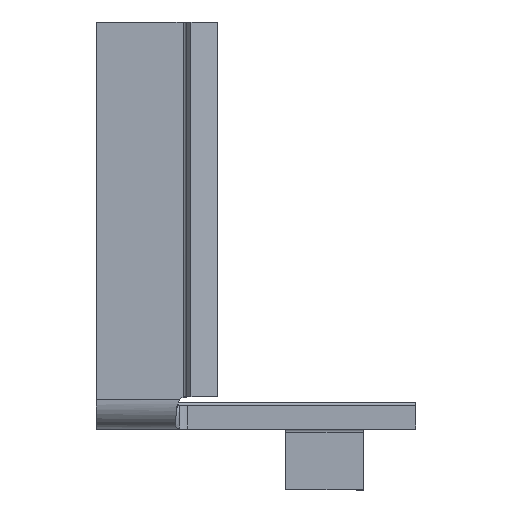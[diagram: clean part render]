
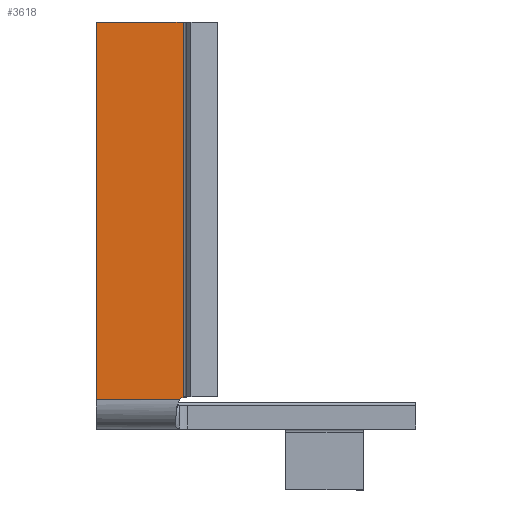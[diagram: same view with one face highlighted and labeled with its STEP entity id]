
A CAD part, left-side view. The second image highlights one B-rep face of the part: STEP entity #3618.
In plain terms, the highlighted planar face has unit normal (-1, 0, 0).
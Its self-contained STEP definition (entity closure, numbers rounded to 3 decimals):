
#101 = ORIENTED_EDGE ( 'NONE', *, *, #2393, .F. ) ;
#102 = ORIENTED_EDGE ( 'NONE', *, *, #2345, .T. ) ;
#103 = ORIENTED_EDGE ( 'NONE', *, *, #2093, .T. ) ;
#104 = ORIENTED_EDGE ( 'NONE', *, *, #2275, .F. ) ;
#105 = ORIENTED_EDGE ( 'NONE', *, *, #500, .T. ) ;
#231 = CARTESIAN_POINT ( 'NONE',  ( -91.75, 9.517, 1.95 ) ) ;
#233 = CARTESIAN_POINT ( 'NONE',  ( -91.75, 15., 1.95 ) ) ;
#259 = CARTESIAN_POINT ( 'NONE',  ( -91.75, 9.293, 26.75 ) ) ;
#260 = CARTESIAN_POINT ( 'NONE',  ( -91.75, 15., 26.75 ) ) ;
#285 = CARTESIAN_POINT ( 'NONE',  ( -91.75, 9.293, 2.084 ) ) ;
#372 = CARTESIAN_POINT ( 'NONE',  ( -91.75, 15., 0. ) ) ;
#373 = DIRECTION ( 'NONE',  ( 0., 0., -1. ) ) ;
#500 = EDGE_CURVE ( 'NONE', #699, #753, #3297, .T. ) ;
#632 = AXIS2_PLACEMENT_3D ( 'NONE', #3222, #3224, #3225 ) ;
#699 = VERTEX_POINT ( 'NONE', #231 ) ;
#701 = VERTEX_POINT ( 'NONE', #233 ) ;
#727 = VERTEX_POINT ( 'NONE', #259 ) ;
#728 = VERTEX_POINT ( 'NONE', #260 ) ;
#753 = VERTEX_POINT ( 'NONE', #285 ) ;
#1192 = FACE_OUTER_BOUND ( 'NONE', #1225, .T. ) ;
#1225 = EDGE_LOOP ( 'NONE', ( #101, #102, #103, #104, #105 ) ) ;
#1609 = CARTESIAN_POINT ( 'NONE',  ( -91.75, -3., 26.75 ) ) ;
#1649 = DIRECTION ( 'NONE',  ( 0., 1., 0. ) ) ;
#1697 = CARTESIAN_POINT ( 'NONE',  ( -91.75, 9.293, 0. ) ) ;
#1698 = DIRECTION ( 'NONE',  ( 0., 0., -1. ) ) ;
#1922 = PLANE ( 'NONE',  #4618 ) ;
#1925 = CARTESIAN_POINT ( 'NONE',  ( -91.75, -3., 0. ) ) ;
#1934 = DIRECTION ( 'NONE',  ( 1., 0., 0. ) ) ;
#1935 = DIRECTION ( 'NONE',  ( 0., 1., 0. ) ) ;
#2093 = EDGE_CURVE ( 'NONE', #728, #701, #3972, .T. ) ;
#2275 = EDGE_CURVE ( 'NONE', #699, #701, #2938, .T. ) ;
#2345 = EDGE_CURVE ( 'NONE', #727, #728, #2987, .T. ) ;
#2393 = EDGE_CURVE ( 'NONE', #727, #753, #2693, .T. ) ;
#2693 = LINE ( 'NONE', #1697, #2694 ) ;
#2694 = VECTOR ( 'NONE', #1698, 1000. ) ;
#2938 = LINE ( 'NONE', #4260, #2939 ) ;
#2939 = VECTOR ( 'NONE', #4261, 1000. ) ;
#2984 = VECTOR ( 'NONE', #1649, 1000. ) ;
#2987 = LINE ( 'NONE', #1609, #2984 ) ;
#3222 = CARTESIAN_POINT ( 'NONE',  ( -91.75, 9., 1.339 ) ) ;
#3224 = DIRECTION ( 'NONE',  ( 1., 0., 0. ) ) ;
#3225 = DIRECTION ( 'NONE',  ( 0., 0., 1. ) ) ;
#3297 = CIRCLE ( 'NONE', #632, 0.8 ) ;
#3618 = ADVANCED_FACE ( 'NONE', ( #1192 ), #1922, .F. ) ;
#3972 = LINE ( 'NONE', #372, #3973 ) ;
#3973 = VECTOR ( 'NONE', #373, 1000. ) ;
#4260 = CARTESIAN_POINT ( 'NONE',  ( -91.75, -3., 1.95 ) ) ;
#4261 = DIRECTION ( 'NONE',  ( 0., 1., 0. ) ) ;
#4618 = AXIS2_PLACEMENT_3D ( 'NONE', #1925, #1934, #1935 ) ;
